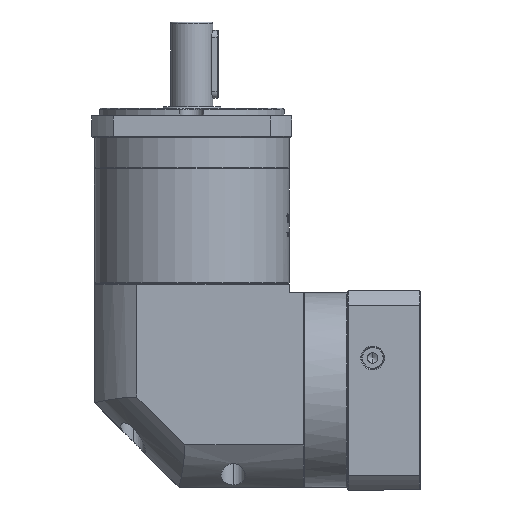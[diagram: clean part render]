
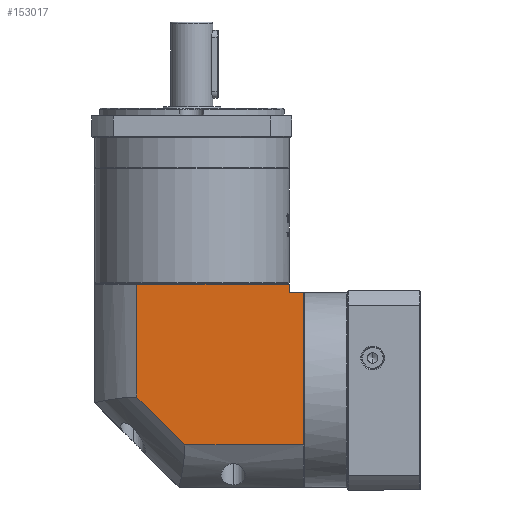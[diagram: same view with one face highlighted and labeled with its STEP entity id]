
A CAD part, left-side view. The second image highlights one B-rep face of the part: STEP entity #153017.
In plain terms, the highlighted planar face has unit normal (-1, 0, 0).
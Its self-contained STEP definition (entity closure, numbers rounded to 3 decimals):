
#8562 = ORIENTED_EDGE ( 'NONE', *, *, #161763, .F. ) ;
#9591 = LINE ( 'NONE', #81346, #48717 ) ;
#14197 = DIRECTION ( 'NONE',  ( 0., 1., 0. ) ) ;
#14750 = PLANE ( 'NONE',  #79102 ) ;
#16472 = VECTOR ( 'NONE', #121476, 1000. ) ;
#19891 = DIRECTION ( 'NONE',  ( 0., 1., 0. ) ) ;
#22537 = VECTOR ( 'NONE', #55530, 1000. ) ;
#27123 = DIRECTION ( 'NONE',  ( 0., 0., -1. ) ) ;
#29553 = CARTESIAN_POINT ( 'NONE',  ( -278.357, -121.127, 47.344 ) ) ;
#29893 = CARTESIAN_POINT ( 'NONE',  ( -278.357, -59.565, -42.556 ) ) ;
#34178 = VERTEX_POINT ( 'NONE', #104408 ) ;
#34747 = VECTOR ( 'NONE', #19891, 1000. ) ;
#40704 = DIRECTION ( 'NONE',  ( 1., 0., 0. ) ) ;
#41928 = CARTESIAN_POINT ( 'NONE',  ( -278.357, -31.227, -14.218 ) ) ;
#43161 = ORIENTED_EDGE ( 'NONE', *, *, #100325, .T. ) ;
#43163 = EDGE_CURVE ( 'NONE', #148145, #91339, #69686, .T. ) ;
#48717 = VECTOR ( 'NONE', #91642, 1000. ) ;
#50661 = VERTEX_POINT ( 'NONE', #165453 ) ;
#51541 = LINE ( 'NONE', #29893, #16472 ) ;
#52405 = EDGE_CURVE ( 'NONE', #50661, #94097, #124569, .T. ) ;
#55530 = DIRECTION ( 'NONE',  ( 0., 0., 1. ) ) ;
#57124 = ORIENTED_EDGE ( 'NONE', *, *, #101479, .F. ) ;
#58209 = LINE ( 'NONE', #162138, #62353 ) ;
#59372 = CARTESIAN_POINT ( 'NONE',  ( -278.357, -59.565, -42.556 ) ) ;
#59943 = ORIENTED_EDGE ( 'NONE', *, *, #52405, .F. ) ;
#62353 = VECTOR ( 'NONE', #71193, 1000. ) ;
#67520 = LINE ( 'NONE', #164819, #34747 ) ;
#69686 = LINE ( 'NONE', #93916, #22537 ) ;
#71193 = DIRECTION ( 'NONE',  ( 0., -1., 0. ) ) ;
#75722 = CARTESIAN_POINT ( 'NONE',  ( -278.357, -129.527, 47.344 ) ) ;
#79102 = AXIS2_PLACEMENT_3D ( 'NONE', #145926, #40704, #14197 ) ;
#81346 = CARTESIAN_POINT ( 'NONE',  ( -278.357, -121.127, -67.656 ) ) ;
#88958 = EDGE_CURVE ( 'NONE', #122605, #50661, #111469, .T. ) ;
#89717 = CARTESIAN_POINT ( 'NONE',  ( -278.357, -6.127, -42.556 ) ) ;
#91339 = VERTEX_POINT ( 'NONE', #93527 ) ;
#91642 = DIRECTION ( 'NONE',  ( 0., 0., 1. ) ) ;
#93527 = CARTESIAN_POINT ( 'NONE',  ( -278.357, -31.227, 52.344 ) ) ;
#93916 = CARTESIAN_POINT ( 'NONE',  ( -278.357, -31.227, 58.844 ) ) ;
#94097 = VERTEX_POINT ( 'NONE', #59372 ) ;
#100325 = EDGE_CURVE ( 'NONE', #102307, #34178, #9591, .T. ) ;
#101479 = EDGE_CURVE ( 'NONE', #91339, #34178, #58209, .T. ) ;
#102307 = VERTEX_POINT ( 'NONE', #29553 ) ;
#102896 = DIRECTION ( 'NONE',  ( 0., 1., 0. ) ) ;
#104408 = CARTESIAN_POINT ( 'NONE',  ( -278.357, -121.127, 52.344 ) ) ;
#105696 = CARTESIAN_POINT ( 'NONE',  ( -278.357, -129.527, 58.844 ) ) ;
#107397 = VECTOR ( 'NONE', #27123, 1000. ) ;
#111469 = LINE ( 'NONE', #105696, #107397 ) ;
#112256 = VECTOR ( 'NONE', #102896, 1000. ) ;
#113024 = ORIENTED_EDGE ( 'NONE', *, *, #153502, .T. ) ;
#121476 = DIRECTION ( 'NONE',  ( 0., 0.707, 0.707 ) ) ;
#122605 = VERTEX_POINT ( 'NONE', #75722 ) ;
#123324 = ORIENTED_EDGE ( 'NONE', *, *, #88958, .F. ) ;
#124569 = LINE ( 'NONE', #89717, #112256 ) ;
#129543 = ORIENTED_EDGE ( 'NONE', *, *, #43163, .F. ) ;
#134906 = EDGE_LOOP ( 'NONE', ( #129543, #8562, #59943, #123324, #113024, #43161, #57124 ) ) ;
#143267 = FACE_OUTER_BOUND ( 'NONE', #134906, .T. ) ;
#145926 = CARTESIAN_POINT ( 'NONE',  ( -278.357, -6.127, 58.844 ) ) ;
#148145 = VERTEX_POINT ( 'NONE', #41928 ) ;
#153017 = ADVANCED_FACE ( 'NONE', ( #143267 ), #14750, .F. ) ;
#153502 = EDGE_CURVE ( 'NONE', #122605, #102307, #67520, .T. ) ;
#161763 = EDGE_CURVE ( 'NONE', #94097, #148145, #51541, .T. ) ;
#162138 = CARTESIAN_POINT ( 'NONE',  ( -278.357, -6.127, 52.344 ) ) ;
#164819 = CARTESIAN_POINT ( 'NONE',  ( -278.357, -121.127, 47.344 ) ) ;
#165453 = CARTESIAN_POINT ( 'NONE',  ( -278.357, -129.527, -42.556 ) ) ;
